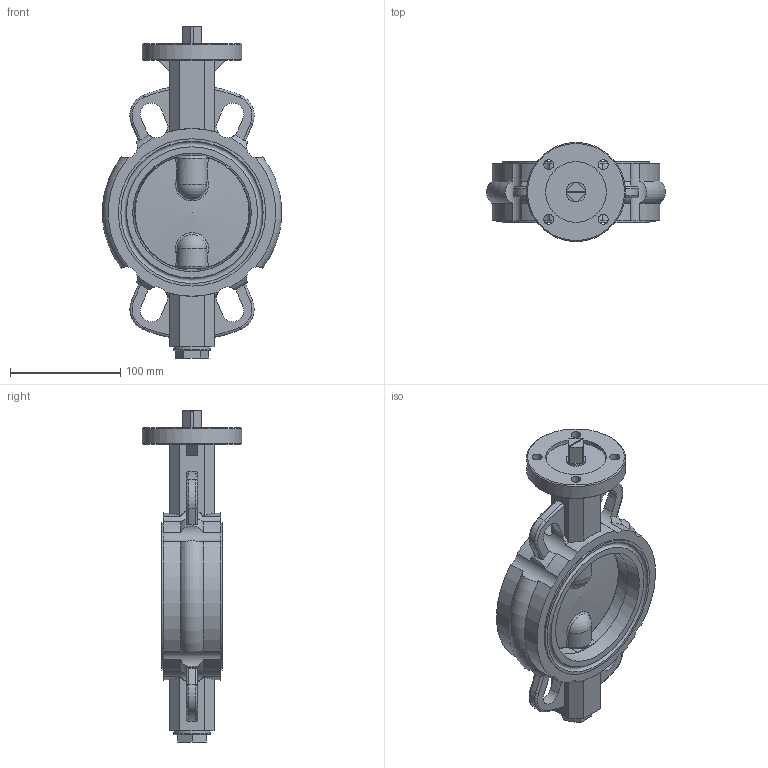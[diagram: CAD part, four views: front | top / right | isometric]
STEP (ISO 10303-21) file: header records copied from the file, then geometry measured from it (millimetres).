
FILE_DESCRIPTION( ( 'STEP AP214' ), '1' );
FILE_NAME( ' ', ' ', ( ' ' ), ( ' ' ), 'PSStep 13.0', 'VISI 18.0', ' ' );
FILE_SCHEMA( ( 'AUTOMOTIVE_DESIGN { 1 0 10303 214 1 1 1 1 }' ) );
Length unit declared in the file: millimetre
Products named in the file (1): 1
Bounding box: 162.37 x 90 x 301 mm (x, y, z)
Volume: 878453.7 mm3; surface area: 126306.5 mm2
Topology: 1 solids, 2 shells, 241 faces, 668 edges, 424 vertices
Faces by surface type: plane 83, cylinder 62, bspline 44, torus 42, cone 6, sphere 4
Full cylindrical faces by diameter (mm): 9 x4, 18 x1, 33.5 x1, 55 x1, 90 x1, 133.6 x2
Entity records: 16793 total; most frequent: CARTESIAN_POINT 9172, ORIENTED_EDGE 1252, DIRECTION 1100, EDGE_CURVE 626, AXIS2_PLACEMENT_3D 444, VERTEX_POINT 412, EDGE_LOOP 278, FACE_OUTER_BOUND 255
